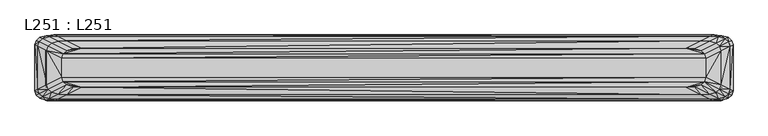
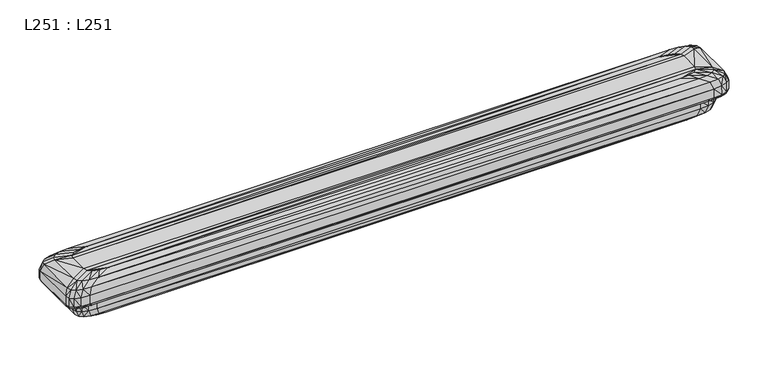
"""IFC4 building model written with IfcOpenShell, lengths in millimetres: light fixture geometry, L251 : L251."""

from ifc_helpers import new_model, si_unit, origin, place, context, project, spatial, faceted_brep, source, transform, mapped, element, save


def l251_l251_78c3c87a(model_context):
    return source(origin(), model_context, "Body", "Brep", [
        faceted_brep([(598.4514049, -40.1224535, 1357.0101001), (596.2952547, -47.6428215, 1357.0950324), (591.8508295, -45.455175, 1354.854755), (599.9356659, -40.8163556, 1360.7102757), (589.8280554, -53.0161537, 1357.1554911), (594.0069796, -37.9290891, 1354.7699455), (598.454639, 37.2413887, 1356.8749773), (594.0102591, 34.9979042, 1354.6848549), (597.7795157, -48.3424269, 1360.7954417), (591.3137434, -53.715759, 1360.8559009), (585.38363, -50.8284926, 1354.9155701), (584.4462399, -41.7680514, 1354.0748551), (599.9528495, -40.6314411, 1377.0754305), (597.7966994, -48.1575124, 1377.1605965), (599.9560685, 38.2056475, 1376.923864), (599.9388849, 38.020733, 1360.5587092), (580.5354947, -56.9363375, 1360.8920086), (579.0498066, -56.2424355, 1357.1918325), (574.6053813, -54.0547743, 1354.9519116), (586.600963, -34.2476834, 1353.9899223), (586.6043182, 31.3016862, 1353.9878742), (596.2997618, 44.7617688, 1356.7903399), (591.8539549, 42.5239876, 1354.5999833), (584.449441, 38.8220663, 1353.9032368), (591.330927, -53.5308446, 1377.2210557), (580.5526783, -56.7571263, 1377.2573971), (577.9790405, -47.1413836, 1354.1353137), (567.2007918, -50.3676653, 1354.1716552), (552.1114938, -51.4411933, 1354.1836457), (592.6835292, -45.45262, 1389.9151714), (594.8382523, -37.9322374, 1389.830595), (597.8011914, 45.726013, 1376.8388701), (592.6866466, 43.3145466, 1389.6513224), (594.8415237, 35.7941811, 1389.7363162), (597.7840077, 45.5468018, 1360.4734816), (565.4633802, -57.8306543, 1377.2693876), (565.4461966, -58.0155688, 1360.9042329), (563.9605085, -57.3159489, 1357.2041795), (559.5160833, -55.1283023, 1354.9639021), (-552.1251162, -51.44119, 1354.1837279), (-586.6149379, -34.2476766, 1353.9900887), (-586.6115827, 31.301693, 1353.9880406), (552.1144965, 48.4951996, 1353.794235), (589.8324523, 50.1407967, 1356.7294625), (591.3166982, 50.9201264, 1360.412838), (585.3880724, 47.8973123, 1354.5393401), (577.9821315, 44.1953909, 1353.8425931), (586.2163299, -50.8316555, 1389.9758637), (575.438081, -54.0522193, 1390.0123279), (560.348783, -55.1257473, 1390.0243185), (577.3089441, -37.6980255, 1397.4991067), (579.4636672, -30.1719542, 1397.4139403), (591.3338818, 51.1050409, 1376.7779928), (577.3107916, 35.7314565, 1397.4080671), (586.220764, 48.6878858, 1389.5910356), (579.4670958, 28.2110764, 1397.492705), (-565.4299626, -57.8306481, 1377.2695409), (-565.4471462, -58.0155625, 1360.9043861), (-560.2885673, -55.1257567, 1390.0240891), (-563.9703408, -57.3159591, 1357.203929), (-559.5287128, -55.1283038, 1354.9638658), (-577.9927511, -47.1413813, 1354.1353697), (-567.2144363, -50.367665, 1354.1716628), (-584.4600606, -41.7680567, 1354.0747261), (-594.0185345, -37.9290871, 1354.7699928), (567.2038166, 47.4216746, 1353.8063001), (559.5204374, 52.1971209, 1354.490982), (574.6097575, 51.123596, 1354.5030471), (-559.5257857, 52.1971194, 1354.4909451), (-552.1221134, 48.4952029, 1353.7943172), (-584.4568596, 38.822061, 1353.9031078), (-594.0152549, 34.9979062, 1354.6849023), (580.5398104, 54.1407069, 1360.3767791), (579.0541375, 53.3613626, 1356.6930467), (580.556994, 54.3256214, 1376.7419339), (570.8417447, -43.0713577, 1397.5595654), (560.063496, -46.2976395, 1397.5959068), (544.9741979, -47.3711675, 1397.6078974), (-544.898029, -47.3711655, 1397.607945), (551.6729441, -24.888055, 1399.911456), (553.8290941, -17.3619691, 1399.8266465), (570.8449091, 41.1047811, 1397.3474239), (545.2091709, 28.3500673, 1400.0484616), (551.6750534, 22.9767427, 1400.1091048), (553.8313576, 15.4563626, 1400.1937426), (575.4424492, 51.9141549, 1389.5543862), (-580.5192827, -56.7514198, 1377.2572421), (-580.5364664, -56.9363343, 1360.8920873), (-575.3778874, -54.0522318, 1390.012024), (-579.0596609, -56.2424342, 1357.1918639), (-559.9873491, -46.2976406, 1397.5958799), (-574.6180329, -54.0490756, 1354.9515669), (-585.3963477, -50.8284951, 1354.9155076), (-591.8636573, -45.4551705, 1354.8548639), (-598.4587355, -40.1224457, 1357.0102903), (563.9648174, 54.4348875, 1356.6809816), (-563.964605, 54.4405952, 1356.6808544), (-574.6150837, 51.1235914, 1354.5029357), (-567.2114115, 47.4216749, 1353.8063077), (-577.9896602, 44.1953932, 1353.8426491), (-585.3933324, 47.8973097, 1354.5392771), (-591.8591049, 42.5239921, 1354.6000927), (-598.4555013, 37.2413819, 1356.874811), (565.4676739, 55.4048496, 1376.7296351), (565.4504903, 55.2199351, 1360.3644803), (545.2057446, -30.2613726, 1399.9722712), (534.4274959, -33.481951, 1400.0083789), (519.3381978, -34.5611823, 1400.0206031), (-519.2554938, -34.5611712, 1400.0208759), (-534.344814, -33.4819429, 1400.008577), (-551.5904382, -24.8880525, 1399.9115176), (-553.7453155, -17.3619691, 1399.8266465), (-553.743052, 15.4563626, 1400.1937426), (560.0665942, 44.3310648, 1397.3111309), (534.430856, 31.576351, 1400.0121686), (519.3415359, 32.649876, 1400.0001034), (-551.5883289, 22.9767452, 1400.1091663), (560.3531291, 52.9876799, 1389.542321), (544.9772741, 45.4045898, 1397.2990657), (-591.2975976, -53.5308394, 1377.2211828), (-586.1562023, -50.825948, 1389.975731), (-589.8365488, -53.0161504, 1357.1555714), (-591.3133542, -53.7157538, 1360.8560285), (-570.764237, -43.0713568, 1397.5595873), (-545.1231287, -30.2613771, 1399.9721612), (-596.3038583, -47.6428258, 1357.0949277), (-599.935541, -40.8163458, 1360.7105137), (-565.4428526, 55.2199414, 1360.3646336), (-579.0553301, 53.3613639, 1356.6930781), (-589.8321519, 50.1408, 1356.7295428), (-596.2993513, 44.7617645, 1356.7902352), (-599.9323219, 38.0207282, 1360.5585907), (-565.425669, 55.4048559, 1376.7297884), (-577.2315465, -37.6980322, 1397.4989436), (-579.3864237, -30.1719488, 1397.4140726), (-579.3844222, 28.2110818, 1397.4928368), (-519.2535827, 32.6498725, 1400.0000192), (-577.2282721, 35.7314644, 1397.4082609), (-570.7610726, 41.104782, 1397.3474458), (-545.1211294, 28.3500628, 1400.0483512), (-544.8935258, 45.4045917, 1397.2991138), (-560.2842213, 52.9876851, 1389.5424481), (-597.7634801, -48.1575147, 1377.1605396), (-592.6220847, -45.4526234, 1389.9150878), (-597.7806637, -48.3424292, 1360.7953848), (-599.9183573, -40.6314313, 1377.0756685), (-599.9151383, 38.2056426, 1376.9237455), (-580.5321506, 54.1407101, 1360.3768578), (-580.514967, 54.3256246, 1376.7420126), (-591.3103994, 50.9201317, 1360.4129656), (-597.7761718, 45.5468141, 1360.4737812), (-575.3735193, 51.9141571, 1389.5544387), (-594.778389, -37.9322433, 1389.8304499), (-594.7751176, 35.7941751, 1389.7361711), (-592.6189675, 43.3145578, 1389.6515952), (-534.3428807, 31.5763445, 1400.0120097), (-559.9828239, 44.3310637, 1397.3111044), (-586.151768, 48.6878753, 1389.5907801), (-597.7604153, 45.7317285, 1376.8389355), (-591.2932157, 51.1050461, 1376.7781204)], [[[0, 1, 2]], [[1, 0, 3]], [[2, 1, 4]], [[2, 5, 0]], [[3, 0, 6]], [[7, 6, 0]], [[0, 5, 7]], [[3, 8, 1]], [[1, 8, 9]], [[4, 1, 9]], [[10, 2, 4]], [[11, 2, 10]], [[5, 2, 11]], [[12, 13, 8, 3]], [[14, 12, 3, 15]], [[6, 15, 3]], [[4, 9, 16]], [[17, 4, 16]], [[18, 10, 4, 17]], [[11, 19, 5]], [[5, 19, 20]], [[20, 7, 5]], [[6, 21, 15]], [[22, 21, 6]], [[7, 22, 6]], [[23, 22, 7]], [[20, 23, 7]], [[13, 24, 9, 8]], [[24, 25, 9]], [[25, 16, 9]], [[26, 11, 10]], [[27, 26, 10, 18]], [[11, 26, 28]], [[11, 28, 19]], [[13, 12, 29]], [[30, 12, 14]], [[12, 30, 29]], [[24, 13, 29]], [[31, 14, 15]], [[14, 31, 32, 33]], [[14, 33, 30]], [[21, 34, 15]], [[15, 34, 31]], [[25, 35, 16]], [[35, 36, 16]], [[17, 16, 36]], [[18, 17, 37]], [[37, 17, 36]], [[28, 27, 18, 38]], [[38, 18, 37]], [[19, 28, 39]], [[19, 39, 40]], [[19, 40, 41, 20]], [[42, 23, 20]], [[20, 41, 42]], [[21, 43, 44]], [[43, 21, 22]], [[44, 34, 21]], [[22, 45, 43]], [[45, 22, 23]], [[23, 46, 45]], [[42, 46, 23]], [[25, 24, 47]], [[29, 47, 24]], [[35, 25, 48, 49]], [[47, 48, 25]], [[28, 26, 27]], [[28, 38, 39]], [[29, 30, 50]], [[47, 29, 50]], [[51, 30, 33]], [[30, 51, 50]], [[52, 31, 34]], [[31, 52, 32]], [[33, 32, 53]], [[52, 54, 32]], [[32, 54, 53]], [[33, 55, 51]], [[53, 55, 33]], [[34, 44, 52]], [[35, 56, 57, 36]], [[58, 56, 35]], [[35, 49, 58]], [[37, 36, 57]], [[57, 59, 37]], [[38, 37, 59]], [[38, 60, 39]], [[59, 60, 38]], [[61, 39, 62]], [[62, 39, 60]], [[63, 39, 61]], [[40, 39, 63]], [[40, 64, 41]], [[64, 40, 63]], [[65, 46, 42]], [[65, 42, 66, 67]], [[68, 66, 42]], [[69, 68, 42]], [[42, 41, 69]], [[69, 41, 70]], [[70, 41, 71]], [[64, 71, 41]], [[72, 44, 43]], [[43, 73, 72]], [[73, 43, 45]], [[74, 52, 44, 72]], [[45, 67, 73]], [[46, 65, 67, 45]], [[48, 47, 75]], [[50, 75, 47]], [[49, 48, 76, 77]], [[75, 76, 48]], [[49, 77, 78]], [[78, 58, 49]], [[50, 51, 79]], [[75, 50, 79]], [[80, 51, 55]], [[51, 80, 79]], [[52, 74, 54]], [[53, 81, 82, 83]], [[54, 81, 53]], [[55, 53, 83, 84]], [[74, 85, 54]], [[54, 85, 81]], [[55, 84, 80]], [[56, 86, 87, 57]], [[56, 58, 88]], [[86, 56, 88]], [[89, 59, 57]], [[57, 87, 89]], [[88, 58, 78, 90]], [[91, 60, 59]], [[59, 89, 91]], [[60, 91, 62]], [[61, 62, 91]], [[92, 93, 63, 61]], [[91, 92, 61]], [[93, 64, 63]], [[64, 94, 71]], [[94, 64, 93]], [[67, 66, 95, 73]], [[96, 95, 66]], [[68, 96, 66]], [[96, 68, 97]], [[97, 68, 69, 98]], [[99, 98, 69]], [[69, 70, 99]], [[100, 99, 70]], [[101, 100, 70]], [[71, 101, 70]], [[101, 71, 102]], [[94, 102, 71]], [[103, 74, 72, 104]], [[104, 72, 73]], [[73, 95, 104]], [[74, 103, 85]], [[79, 105, 75]], [[76, 75, 105]], [[77, 76, 106]], [[105, 106, 76]], [[106, 107, 77]], [[77, 107, 108]], [[108, 78, 77]], [[90, 78, 109]], [[78, 108, 109]], [[110, 79, 80]], [[110, 108, 79]], [[108, 107, 79]], [[79, 107, 105]], [[111, 80, 84, 112]], [[110, 80, 111]], [[81, 113, 114, 82]], [[83, 82, 115]], [[85, 113, 81]], [[115, 82, 114]], [[116, 83, 115]], [[112, 83, 116]], [[112, 84, 83]], [[103, 117, 85]], [[85, 117, 118, 113]], [[86, 119, 87]], [[86, 88, 120]], [[119, 86, 120]], [[121, 89, 87]], [[87, 122, 121]], [[119, 122, 87]], [[88, 90, 123]], [[120, 88, 123]], [[92, 91, 89]], [[89, 121, 92]], [[90, 109, 124]], [[123, 90, 124]], [[121, 125, 93, 92]], [[125, 94, 93]], [[94, 126, 102]], [[126, 94, 125]], [[96, 127, 95]], [[127, 104, 95]], [[128, 96, 97]], [[127, 96, 128]], [[100, 97, 98, 99]], [[128, 97, 100]], [[129, 128, 100]], [[129, 100, 101]], [[130, 129, 101]], [[102, 130, 101]], [[126, 131, 102]], [[130, 102, 131]], [[132, 103, 104, 127]], [[117, 103, 132]], [[105, 107, 106]], [[124, 109, 108]], [[124, 108, 110]], [[133, 123, 124, 110]], [[134, 133, 110, 111]], [[135, 134, 111]], [[112, 135, 111]], [[113, 118, 115, 114]], [[115, 118, 136]], [[116, 115, 136]], [[135, 112, 116]], [[137, 135, 116]], [[138, 137, 116, 139]], [[136, 139, 116]], [[118, 117, 140]], [[132, 141, 117]], [[117, 141, 140]], [[118, 140, 136]], [[142, 119, 120, 143]], [[119, 142, 122]], [[120, 123, 133]], [[143, 120, 133]], [[122, 144, 125, 121]], [[142, 144, 122]], [[144, 126, 125]], [[145, 146, 131, 126]], [[142, 145, 126, 144]], [[147, 127, 128]], [[127, 147, 148, 132]], [[147, 128, 129]], [[149, 147, 129]], [[149, 129, 130]], [[150, 149, 130]], [[131, 150, 130]], [[150, 131, 146]], [[151, 141, 132]], [[132, 148, 151]], [[133, 134, 152]], [[152, 143, 133]], [[153, 152, 134]], [[135, 153, 134]], [[154, 153, 135, 137]], [[155, 139, 136]], [[140, 156, 155, 136]], [[157, 154, 137, 138]], [[156, 138, 139, 155]], [[151, 157, 138, 156]], [[141, 151, 156, 140]], [[145, 142, 143]], [[143, 152, 145]], [[146, 145, 152]], [[153, 146, 152]], [[146, 153, 154]], [[158, 146, 154]], [[146, 158, 150]], [[147, 149, 159, 148]], [[157, 151, 148]], [[148, 159, 157]], [[158, 159, 149]], [[149, 150, 158]], [[159, 158, 154, 157]]]),
        faceted_brep([(558.767294, -29.3753635, 1319.6705643), (560.9234442, -21.8492921, 1319.5853983), (576.3141396, -29.4323855, 1327.342064), (574.1579895, -36.9584568, 1327.42723), (533.1273509, -16.6206442, 1316.969659), (535.283501, -9.0945729, 1316.884493), (560.9256343, 18.1239719, 1319.872149), (581.4555873, -31.843853, 1340.1544901), (579.2994372, -39.3699243, 1340.2396561), (552.3015217, -34.7486956, 1319.7310235), (567.6922171, -42.331789, 1327.4876892), (535.2845261, 5.3139775, 1317.4592186), (576.3175997, 25.8785485, 1327.4556489), (572.8322378, -44.7432565, 1340.3001148), (-533.2161709, -16.6206456, 1316.9696257), (-526.7502884, -21.9939702, 1317.0302689), (-500.8826534, -26.2937789, 1317.078627), (526.6601515, -21.9939764, 1317.0301176), (-535.372475, -9.0945768, 1316.8843977), (533.1296489, 12.8343576, 1317.3745813), (558.7707571, 25.6500407, 1319.7869215), (579.31465, -39.2155821, 1354.0459835), (581.4575679, 28.5834544, 1340.2105531), (581.469373, -31.6894962, 1353.9611734), (572.8474506, -44.5889143, 1354.1064421), (541.523273, -37.9749774, 1319.7673649), (556.9139684, -45.5580707, 1327.5240306), (515.8819028, -25.2202582, 1317.0664591), (562.0539891, -47.9695382, 1340.3364562), (-535.3714501, 5.3139882, 1317.4594798), (574.1612954, 33.4046318, 1327.3707774), (562.0692018, -47.8151814, 1354.14314), (-558.853336, -29.375374, 1319.6703064), (-561.0082132, -21.8492906, 1319.5854353), (-552.3860265, -34.7486986, 1319.7309501), (-541.6077117, -37.9749678, 1319.7675996), (-515.9719735, -25.220254, 1317.0665619), (-526.5183916, -39.0484927, 1319.7796647), (500.7926047, -26.2937862, 1317.0784496), (552.3034475, 31.0233799, 1319.7266343), (526.6623393, 18.2076822, 1317.3139376), (-533.2152999, 12.8343562, 1317.3745475), (567.6954129, 38.7779565, 1327.3101342), (546.9799037, -48.8887094, 1354.1551306), (-546.9935786, -48.888707, 1354.155189), (579.3026906, 36.1038345, 1340.1259157), (579.3164764, 36.26388, 1353.9320089), (581.4727807, 28.7377966, 1354.0168804), (-579.3270961, -39.2155737, 1354.0461877), (-581.4834002, -31.6895049, 1353.9609597), (526.4339749, -39.0485054, 1319.7793554), (541.8246703, -46.6315987, 1327.5360212), (546.9646909, -49.0430517, 1340.3488032), (-561.0060232, 18.1239734, 1319.872186), (572.8353811, 41.4828624, 1340.0650384), (-574.227764, -36.9584641, 1327.4270516), (-576.3826412, -29.4323807, 1327.3421806), (-567.7618815, -42.3317888, 1327.4876948), (-556.9835666, -45.5580725, 1327.5239878), (-541.8942465, -46.6315974, 1327.536053), (556.917098, 42.0042402, 1327.2738412), (541.5265598, 34.249649, 1319.6899853), (515.8840245, 21.433966, 1317.2776446), (500.7947044, 22.5074909, 1317.2655794), (-526.7481006, 18.2076884, 1317.3140888), (-558.849873, 25.6500447, 1319.78702), (-552.3826736, 31.0233769, 1319.7265614), (562.0584934, 44.7034283, 1340.028623), (-547.0087914, -49.0430493, 1340.3488617), (-572.8612135, -44.588913, 1354.1064744), (-562.0828987, -47.8151821, 1354.1431239), (-562.0981115, -47.9695243, 1340.3367965), (572.8505939, 41.6372046, 1353.8713657), (546.982959, 45.9370133, 1353.8230075), (-581.4799927, 28.7378025, 1354.0170231), (-579.3423088, -39.3699306, 1340.2395039), (-572.8749993, -44.7432552, 1340.3001475), (-581.4952054, 28.5834456, 1340.2103393), (-581.497186, -31.8438471, 1340.1546328), (-576.3806082, 25.8842565, 1327.4555313), (562.0722791, 44.8577851, 1353.8353064), (541.8277779, 43.0777652, 1327.261776), (546.9691733, 45.7769532, 1340.0165579), (526.4372397, 35.323174, 1319.6779201), (-526.5151267, 35.323172, 1319.6778729), (-500.8805537, 22.5074836, 1317.2654004), (-567.7572587, 38.7779567, 1327.3101403), (-515.9698518, 21.4339702, 1317.2777474), (-541.6044249, 34.2496586, 1319.69022), (-574.2244582, 33.4046391, 1327.3709554), (-556.980437, 42.0042385, 1327.2737984), (-547.0043091, 45.7769556, 1340.0166164), (-546.9905234, 45.9370157, 1353.823066), (-579.3252695, 36.2638738, 1353.9318567), (-579.3390553, 36.1038283, 1340.1257635), (-541.8911389, 43.0777665, 1327.2618078), (-572.871856, 41.4828638, 1340.0650711), (-562.0936071, 44.7034276, 1340.0286069), (-562.0798214, 44.8577844, 1353.8352902), (-572.8580702, 41.637206, 1353.871398)], [[[0, 1, 2, 3]], [[4, 5, 1, 0]], [[2, 1, 6]], [[3, 2, 7, 8]], [[9, 0, 3, 10]], [[4, 0, 9]], [[1, 5, 11]], [[6, 1, 11]], [[12, 2, 6]], [[7, 2, 12]], [[3, 8, 13]], [[10, 3, 13]], [[14, 5, 4]], [[14, 4, 15]], [[15, 4, 16]], [[17, 4, 9]], [[4, 17, 16]], [[18, 5, 14]], [[18, 11, 5]], [[19, 20, 6]], [[6, 20, 12]], [[11, 19, 6]], [[21, 8, 7]], [[22, 7, 12]], [[23, 7, 22]], [[23, 21, 7]], [[21, 24, 13, 8]], [[25, 9, 10, 26]], [[27, 17, 9, 25]], [[26, 10, 13, 28]], [[29, 19, 11]], [[29, 11, 18]], [[12, 30, 22]], [[20, 30, 12]], [[24, 31, 13]], [[31, 28, 13]], [[14, 32, 33]], [[34, 32, 14]], [[18, 14, 33]], [[14, 15, 34]], [[35, 34, 15]], [[15, 36, 35]], [[15, 16, 36]], [[36, 16, 37, 35]], [[37, 16, 38]], [[16, 17, 38]], [[38, 17, 27]], [[29, 18, 33]], [[39, 20, 19]], [[19, 40, 39]], [[40, 19, 41]], [[41, 19, 29]], [[42, 30, 20]], [[20, 39, 42]], [[21, 43, 24]], [[21, 44, 43]], [[23, 44, 21]], [[30, 45, 22]], [[22, 45, 46]], [[46, 47, 22]], [[22, 47, 23]], [[23, 48, 44]], [[48, 23, 49]], [[49, 23, 47]], [[24, 43, 31]], [[50, 25, 26, 51]], [[38, 27, 25, 50]], [[26, 28, 52]], [[51, 26, 52]], [[31, 43, 28]], [[43, 52, 28]], [[41, 29, 53]], [[33, 53, 29]], [[30, 42, 54]], [[54, 45, 30]], [[33, 32, 55, 56]], [[57, 55, 32]], [[32, 34, 57]], [[53, 33, 56]], [[58, 57, 34]], [[34, 35, 58]], [[35, 37, 59, 58]], [[59, 37, 50]], [[50, 37, 38]], [[60, 42, 39]], [[39, 61, 60]], [[61, 39, 40]], [[40, 62, 61]], [[63, 40, 41]], [[62, 40, 63]], [[64, 41, 65, 66]], [[53, 65, 41]], [[63, 41, 64]], [[42, 60, 67]], [[67, 54, 42]], [[44, 68, 52, 43]], [[44, 69, 70]], [[44, 70, 71, 68]], [[44, 48, 69]], [[45, 54, 72]], [[72, 46, 45]], [[73, 46, 72]], [[74, 46, 73]], [[74, 47, 46]], [[49, 47, 74]], [[48, 49, 75]], [[48, 75, 76]], [[69, 48, 76]], [[77, 78, 49]], [[49, 78, 75]], [[74, 77, 49]], [[51, 59, 50]], [[52, 68, 51]], [[68, 59, 51]], [[65, 53, 79]], [[56, 79, 53]], [[54, 67, 80]], [[80, 72, 54]], [[56, 55, 75, 78]], [[55, 57, 76]], [[76, 75, 55]], [[79, 56, 78]], [[57, 58, 71]], [[71, 76, 57]], [[58, 59, 68, 71]], [[60, 81, 82, 67]], [[61, 83, 81, 60]], [[62, 63, 83, 61]], [[84, 83, 63]], [[63, 85, 84]], [[64, 85, 63]], [[66, 65, 86]], [[87, 64, 66, 88]], [[87, 85, 64]], [[65, 89, 86]], [[79, 89, 65]], [[66, 86, 90]], [[88, 66, 90]], [[67, 82, 73]], [[73, 80, 67]], [[70, 69, 71]], [[69, 76, 71]], [[73, 72, 80]], [[73, 82, 91, 92]], [[93, 73, 92]], [[74, 73, 93]], [[74, 93, 94]], [[94, 77, 74]], [[78, 77, 79]], [[89, 79, 77, 94]], [[82, 81, 95]], [[95, 81, 83]], [[91, 82, 95]], [[83, 84, 95]], [[85, 87, 88, 84]], [[84, 88, 95]], [[86, 89, 96]], [[86, 96, 97]], [[90, 86, 97]], [[88, 90, 95]], [[89, 94, 96]], [[95, 90, 97, 91]], [[98, 92, 91]], [[91, 97, 98]], [[99, 92, 98]], [[93, 92, 99]], [[96, 94, 93]], [[93, 99, 96]], [[97, 96, 99]], [[99, 98, 97]]]),
    ])


if __name__ == "__main__":
    model = new_model("IFC4")
    model_context = context("Model", 3, world=origin())
    ifc_project = project(units=[si_unit("LENGTHUNIT", "METRE", prefix="MILLI")], contexts=[model_context])
    site = spatial("IfcSite", under=ifc_project)
    building = spatial("IfcBuilding", under=site)
    placement = place(None, origin())
    l251_l251_shape = l251_l251_78c3c87a(model_context)
    element("IfcLightFixture", 1, ObjectType="L251 : L251", at=placement, inside=building, context=model_context, shape_type="MappedRepresentation", body=[
        mapped(l251_l251_shape, transform((0.0, 0.0, 0.0), x_axis=(1.0, 0.0, 0.0), y_axis=(0.0, 1.0, 0.0), z_axis=(0.0, 0.0, 1.0))),
    ])
    save(model, "model.ifc")
